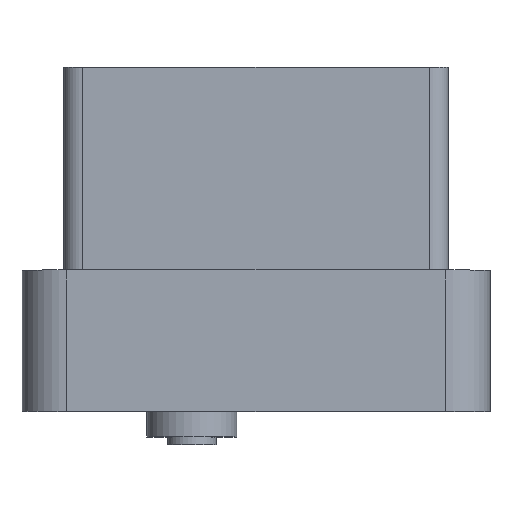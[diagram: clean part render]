
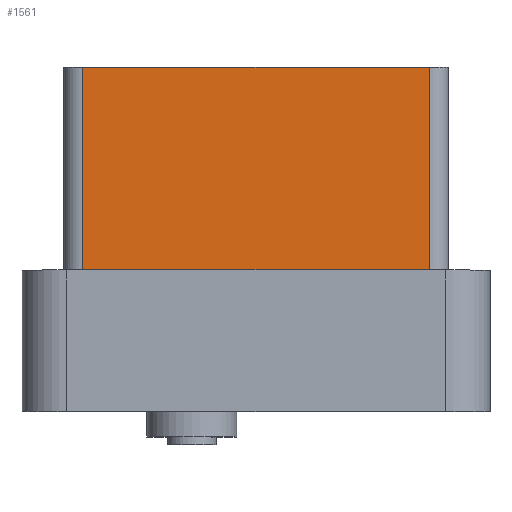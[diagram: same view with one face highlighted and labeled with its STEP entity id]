
A CAD part, top view. The second image highlights one B-rep face of the part: STEP entity #1561.
In plain terms, the highlighted planar face has unit normal (0, 0, 1).
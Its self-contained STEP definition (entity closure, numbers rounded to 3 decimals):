
#931 = PLANE('',#932);
#932 = AXIS2_PLACEMENT_3D('',#933,#934,#935);
#933 = CARTESIAN_POINT('',(-30.,18.,-4.));
#934 = DIRECTION('',(0.,1.,0.));
#935 = DIRECTION('',(0.,0.,1.));
#987 = PLANE('',#988);
#988 = AXIS2_PLACEMENT_3D('',#989,#990,#991);
#989 = CARTESIAN_POINT('',(-30.,62.64,-4.));
#990 = DIRECTION('',(0.,1.,0.));
#991 = DIRECTION('',(0.,0.,1.));
#1013 = CYLINDRICAL_SURFACE('',#1014,3.);
#1014 = AXIS2_PLACEMENT_3D('',#1015,#1016,#1017);
#1015 = CARTESIAN_POINT('',(-27.,18.,5.));
#1016 = DIRECTION('',(0.,1.,0.));
#1017 = DIRECTION('',(-1.,0.,0.));
#1086 = VERTEX_POINT('',#1087);
#1087 = CARTESIAN_POINT('',(-27.,18.,8.));
#1109 = EDGE_CURVE('',#1086,#1110,#1112,.T.);
#1110 = VERTEX_POINT('',#1111);
#1111 = CARTESIAN_POINT('',(27.,18.,8.));
#1112 = SURFACE_CURVE('',#1113,(#1117,#1124),.PCURVE_S1.);
#1113 = LINE('',#1114,#1115);
#1114 = CARTESIAN_POINT('',(-30.,18.,8.));
#1115 = VECTOR('',#1116,1.);
#1116 = DIRECTION('',(1.,0.,0.));
#1117 = PCURVE('',#931,#1118);
#1118 = DEFINITIONAL_REPRESENTATION('',(#1119),#1123);
#1119 = LINE('',#1120,#1121);
#1120 = CARTESIAN_POINT('',(12.,0.));
#1121 = VECTOR('',#1122,1.);
#1122 = DIRECTION('',(0.,1.));
#1123 = ( GEOMETRIC_REPRESENTATION_CONTEXT(2) 
PARAMETRIC_REPRESENTATION_CONTEXT() REPRESENTATION_CONTEXT('2D SPACE',''
  ) );
#1124 = PCURVE('',#1125,#1130);
#1125 = PLANE('',#1126);
#1126 = AXIS2_PLACEMENT_3D('',#1127,#1128,#1129);
#1127 = CARTESIAN_POINT('',(-30.,18.,8.));
#1128 = DIRECTION('',(0.,0.,1.));
#1129 = DIRECTION('',(1.,0.,0.));
#1130 = DEFINITIONAL_REPRESENTATION('',(#1131),#1135);
#1131 = LINE('',#1132,#1133);
#1132 = CARTESIAN_POINT('',(0.,0.));
#1133 = VECTOR('',#1134,1.);
#1134 = DIRECTION('',(1.,0.));
#1135 = ( GEOMETRIC_REPRESENTATION_CONTEXT(2) 
PARAMETRIC_REPRESENTATION_CONTEXT() REPRESENTATION_CONTEXT('2D SPACE',''
  ) );
#1158 = CYLINDRICAL_SURFACE('',#1159,3.);
#1159 = AXIS2_PLACEMENT_3D('',#1160,#1161,#1162);
#1160 = CARTESIAN_POINT('',(27.,18.,5.));
#1161 = DIRECTION('',(0.,1.,0.));
#1162 = DIRECTION('',(1.,0.,-0.));
#1283 = EDGE_CURVE('',#1086,#1284,#1286,.T.);
#1284 = VERTEX_POINT('',#1285);
#1285 = CARTESIAN_POINT('',(-27.,62.64,8.));
#1286 = SURFACE_CURVE('',#1287,(#1291,#1298),.PCURVE_S1.);
#1287 = LINE('',#1288,#1289);
#1288 = CARTESIAN_POINT('',(-27.,18.,8.));
#1289 = VECTOR('',#1290,1.);
#1290 = DIRECTION('',(0.,1.,0.));
#1291 = PCURVE('',#1013,#1292);
#1292 = DEFINITIONAL_REPRESENTATION('',(#1293),#1297);
#1293 = LINE('',#1294,#1295);
#1294 = CARTESIAN_POINT('',(1.571,0.));
#1295 = VECTOR('',#1296,1.);
#1296 = DIRECTION('',(0.,1.));
#1297 = ( GEOMETRIC_REPRESENTATION_CONTEXT(2) 
PARAMETRIC_REPRESENTATION_CONTEXT() REPRESENTATION_CONTEXT('2D SPACE',''
  ) );
#1298 = PCURVE('',#1125,#1299);
#1299 = DEFINITIONAL_REPRESENTATION('',(#1300),#1304);
#1300 = LINE('',#1301,#1302);
#1301 = CARTESIAN_POINT('',(3.,0.));
#1302 = VECTOR('',#1303,1.);
#1303 = DIRECTION('',(0.,1.));
#1304 = ( GEOMETRIC_REPRESENTATION_CONTEXT(2) 
PARAMETRIC_REPRESENTATION_CONTEXT() REPRESENTATION_CONTEXT('2D SPACE',''
  ) );
#1358 = EDGE_CURVE('',#1284,#1359,#1361,.T.);
#1359 = VERTEX_POINT('',#1360);
#1360 = CARTESIAN_POINT('',(27.,62.64,8.));
#1361 = SURFACE_CURVE('',#1362,(#1366,#1373),.PCURVE_S1.);
#1362 = LINE('',#1363,#1364);
#1363 = CARTESIAN_POINT('',(-30.,62.64,8.));
#1364 = VECTOR('',#1365,1.);
#1365 = DIRECTION('',(1.,0.,0.));
#1366 = PCURVE('',#987,#1367);
#1367 = DEFINITIONAL_REPRESENTATION('',(#1368),#1372);
#1368 = LINE('',#1369,#1370);
#1369 = CARTESIAN_POINT('',(12.,0.));
#1370 = VECTOR('',#1371,1.);
#1371 = DIRECTION('',(0.,1.));
#1372 = ( GEOMETRIC_REPRESENTATION_CONTEXT(2) 
PARAMETRIC_REPRESENTATION_CONTEXT() REPRESENTATION_CONTEXT('2D SPACE',''
  ) );
#1373 = PCURVE('',#1125,#1374);
#1374 = DEFINITIONAL_REPRESENTATION('',(#1375),#1379);
#1375 = LINE('',#1376,#1377);
#1376 = CARTESIAN_POINT('',(0.,44.64));
#1377 = VECTOR('',#1378,1.);
#1378 = DIRECTION('',(1.,0.));
#1379 = ( GEOMETRIC_REPRESENTATION_CONTEXT(2) 
PARAMETRIC_REPRESENTATION_CONTEXT() REPRESENTATION_CONTEXT('2D SPACE',''
  ) );
#1539 = EDGE_CURVE('',#1110,#1359,#1540,.T.);
#1540 = SURFACE_CURVE('',#1541,(#1545,#1552),.PCURVE_S1.);
#1541 = LINE('',#1542,#1543);
#1542 = CARTESIAN_POINT('',(27.,18.,8.));
#1543 = VECTOR('',#1544,1.);
#1544 = DIRECTION('',(0.,1.,0.));
#1545 = PCURVE('',#1158,#1546);
#1546 = DEFINITIONAL_REPRESENTATION('',(#1547),#1551);
#1547 = LINE('',#1548,#1549);
#1548 = CARTESIAN_POINT('',(-1.571,0.));
#1549 = VECTOR('',#1550,1.);
#1550 = DIRECTION('',(-0.,1.));
#1551 = ( GEOMETRIC_REPRESENTATION_CONTEXT(2) 
PARAMETRIC_REPRESENTATION_CONTEXT() REPRESENTATION_CONTEXT('2D SPACE',''
  ) );
#1552 = PCURVE('',#1125,#1553);
#1553 = DEFINITIONAL_REPRESENTATION('',(#1554),#1558);
#1554 = LINE('',#1555,#1556);
#1555 = CARTESIAN_POINT('',(57.,0.));
#1556 = VECTOR('',#1557,1.);
#1557 = DIRECTION('',(0.,1.));
#1558 = ( GEOMETRIC_REPRESENTATION_CONTEXT(2) 
PARAMETRIC_REPRESENTATION_CONTEXT() REPRESENTATION_CONTEXT('2D SPACE',''
  ) );
#1561 = ADVANCED_FACE('',(#1562),#1125,.T.);
#1562 = FACE_BOUND('',#1563,.T.);
#1563 = EDGE_LOOP('',(#1564,#1565,#1566,#1567));
#1564 = ORIENTED_EDGE('',*,*,#1358,.F.);
#1565 = ORIENTED_EDGE('',*,*,#1283,.F.);
#1566 = ORIENTED_EDGE('',*,*,#1109,.T.);
#1567 = ORIENTED_EDGE('',*,*,#1539,.T.);
